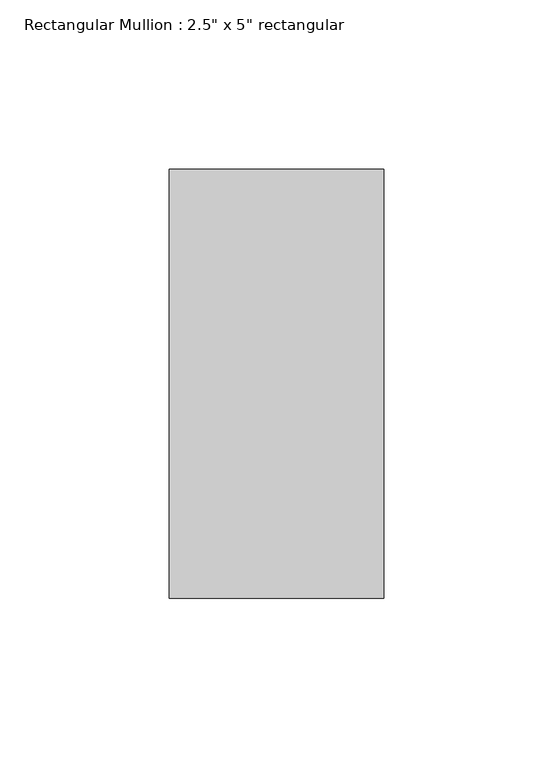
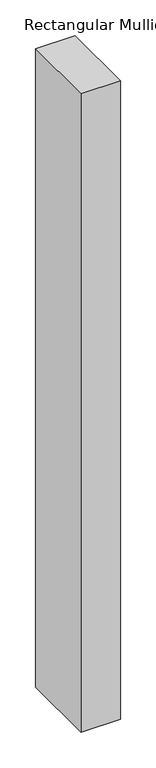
"""IFC4 building model written with IfcOpenShell, lengths in millimetres: member geometry."""

from ifc_helpers import new_model, si_unit, frame, origin, place, context, project, spatial, polyline, outline, extrude, source, transform, mapped, element, save


def member_c385f6dd(model_context):
    return source(origin(), model_context, "Body", "SweptSolid", [
        extrude(outline(polyline([(0.0, 63.5), (0.0, -63.5), (-63.5, -63.5), (-63.5, 63.5), (0.0, 63.5)])), frame((0.0, 0.0, -1088.3899999), z_axis=(0.0, 0.0, 1.0), x_axis=(1.0, 0.0, 0.0)), (0.0, 0.0, 1.0), 1088.3899999),
    ])


if __name__ == "__main__":
    model = new_model("IFC4")
    model_context = context("Model", 3, world=origin())
    ifc_project = project(units=[si_unit("LENGTHUNIT", "METRE", prefix="MILLI")], contexts=[model_context])
    site = spatial("IfcSite", under=ifc_project)
    building = spatial("IfcBuilding", under=site)
    placement = place(None, origin())
    member_shape = member_c385f6dd(model_context)
    element("IfcMember", 1, ObjectType="Rectangular Mullion : 2.5\" x 5\" rectangular", at=placement, inside=building, context=model_context, shape_type="MappedRepresentation", body=[
        mapped(member_shape, transform((0.0, 0.0, 0.0), x_axis=(1.0, 0.0, 0.0), y_axis=(0.0, 1.0, 0.0), z_axis=(0.0, 0.0, 1.0))),
    ])
    save(model, "model.ifc")
